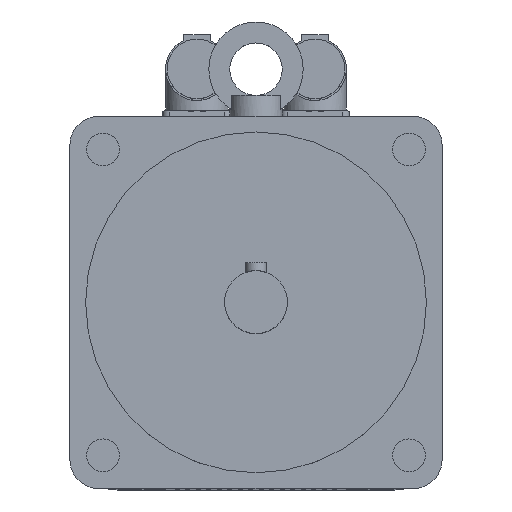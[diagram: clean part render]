
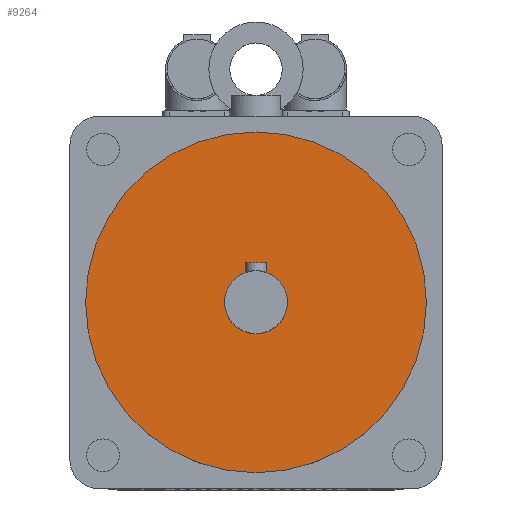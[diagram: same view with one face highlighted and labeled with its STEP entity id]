
A CAD part, top view. The second image highlights one B-rep face of the part: STEP entity #9264.
In plain terms, the highlighted planar face has unit normal (0, 0, 1).
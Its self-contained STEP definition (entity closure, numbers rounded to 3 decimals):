
#107=FACE_BOUND('',#909,.T.);
#283=FACE_OUTER_BOUND('',#908,.T.);
#908=EDGE_LOOP('',(#6623));
#909=EDGE_LOOP('',(#6624));
#1470=CIRCLE('',#9861,12.);
#1471=CIRCLE('',#9863,65.);
#4215=VERTEX_POINT('',#14403);
#4216=VERTEX_POINT('',#14406);
#5156=EDGE_CURVE('',#4215,#4215,#1470,.T.);
#5157=EDGE_CURVE('',#4216,#4216,#1471,.T.);
#6623=ORIENTED_EDGE('',*,*,#5157,.F.);
#6624=ORIENTED_EDGE('',*,*,#5156,.T.);
#8816=PLANE('',#9862);
#9264=ADVANCED_FACE('',(#283,#107),#8816,.T.);
#9861=AXIS2_PLACEMENT_3D('',#14404,#11242,#11243);
#9862=AXIS2_PLACEMENT_3D('',#14405,#11244,#11245);
#9863=AXIS2_PLACEMENT_3D('',#14407,#11246,#11247);
#11242=DIRECTION('center_axis',(0.,0.,-1.));
#11243=DIRECTION('ref_axis',(1.,0.,0.));
#11244=DIRECTION('center_axis',(0.,0.,1.));
#11245=DIRECTION('ref_axis',(1.,0.,0.));
#11246=DIRECTION('center_axis',(0.,0.,-1.));
#11247=DIRECTION('ref_axis',(1.,0.,0.));
#14403=CARTESIAN_POINT('',(0.,12.,297.));
#14404=CARTESIAN_POINT('Origin',(0.,0.,297.));
#14405=CARTESIAN_POINT('Origin',(0.,65.,297.));
#14406=CARTESIAN_POINT('',(0.,65.,297.));
#14407=CARTESIAN_POINT('Origin',(0.,0.,297.));
